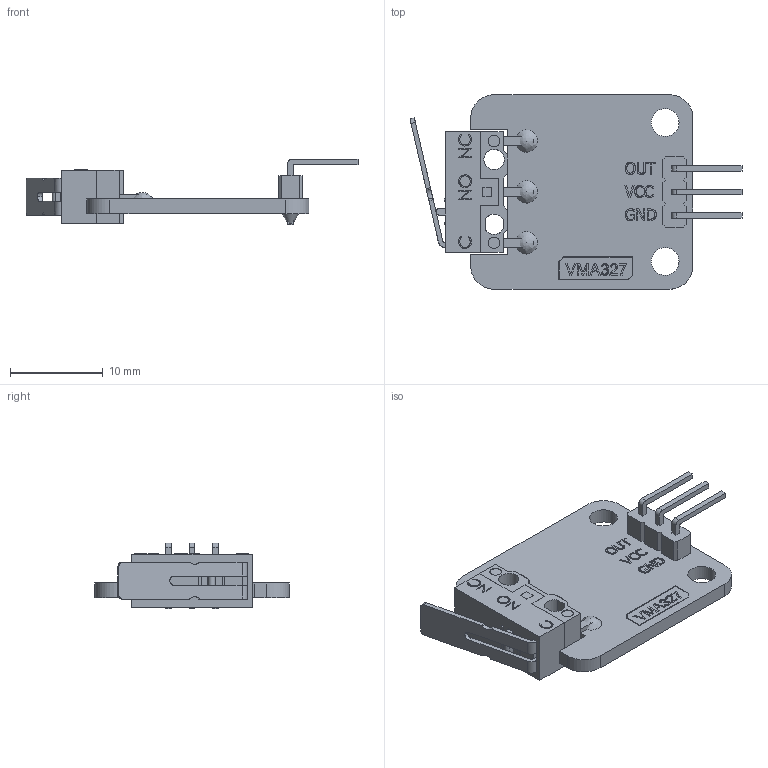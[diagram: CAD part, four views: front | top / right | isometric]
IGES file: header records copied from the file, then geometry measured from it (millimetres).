
Global section: file name: VMA327_limit_switch; native system: Autodesk Inventor 2020; preprocessor: unknown; author: Gebruiker; date: 20230201.214513; units: millimetre
Bounding box: 35.86 x 21 x 7.1 mm (x, y, z)
Volume: 1218.1 mm3; surface area: 1978.5 mm2
Topology: 10 solids, 10 shells, 622 faces, 1658 edges, 1112 vertices
Faces by surface type: bspline 622
